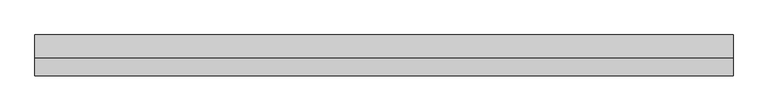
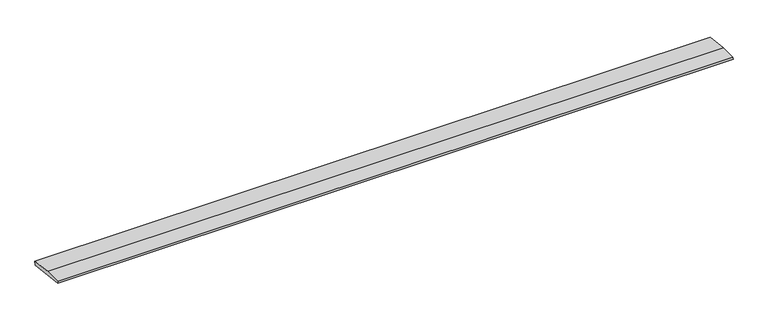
"""IFC4 building model written with IfcOpenShell, lengths in millimetres: beam geometry, weatherboad1 : weatherboad 2."""

from ifc_helpers import new_model, si_unit, frame, origin, place, context, project, spatial, polyline, outline, extrude, source, transform, mapped, element, save


def beam_5568a965(model_context):
    return source(origin(), model_context, "Body", "SweptSolid", [
        extrude(outline(polyline([(0.0, -9.143159), (1.1226388, 0.0), (79.0749747, 0.0), (180.9387048, -12.5072934), (178.6231873, -31.3656703), (0.0, -9.143159)])), frame((-1545.0, 0.0, 0.0), z_axis=(1.0, 0.0, 0.0), x_axis=(0.0, 1.0, 0.0)), (0.0, 0.0, 1.0), 3090.0),
    ])


if __name__ == "__main__":
    model = new_model("IFC4")
    model_context = context("Model", 3, world=origin())
    ifc_project = project(units=[si_unit("LENGTHUNIT", "METRE", prefix="MILLI")], contexts=[model_context])
    site = spatial("IfcSite", under=ifc_project)
    building = spatial("IfcBuilding", under=site)
    placement = place(None, origin())
    beam_shape = beam_5568a965(model_context)
    element("IfcBeam", 1, ObjectType="weatherboad1 : weatherboad 2", at=placement, inside=building, context=model_context, shape_type="MappedRepresentation", body=[
        mapped(beam_shape, transform((0.0, 0.0, 0.0), x_axis=(1.0, 0.0, 0.0), y_axis=(0.0, 1.0, 0.0), z_axis=(0.0, 0.0, 1.0))),
    ])
    save(model, "model.ifc")
